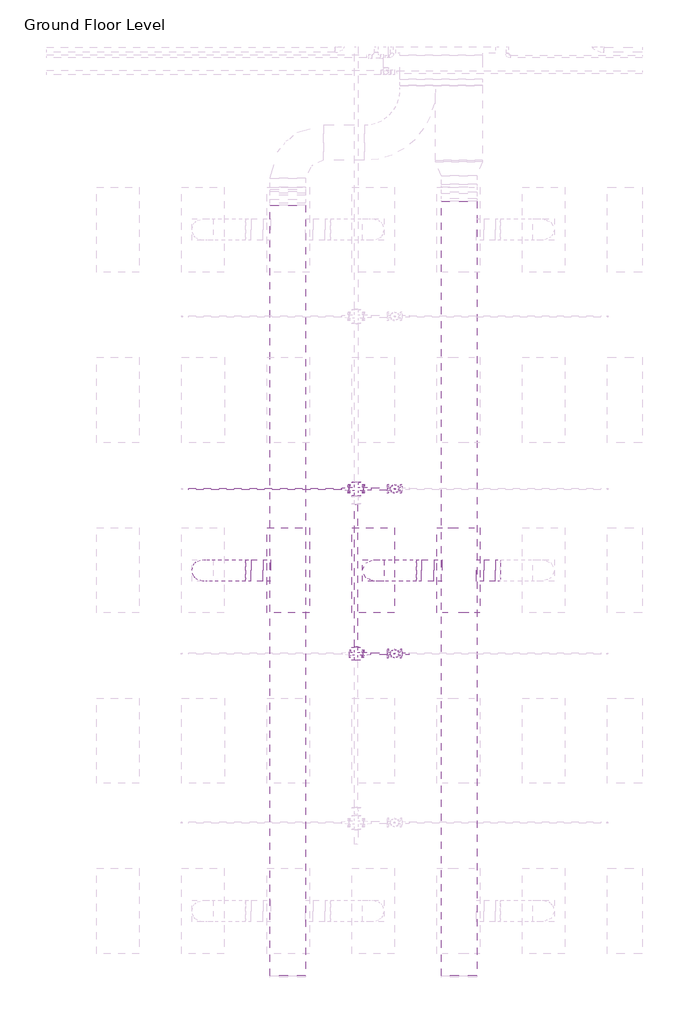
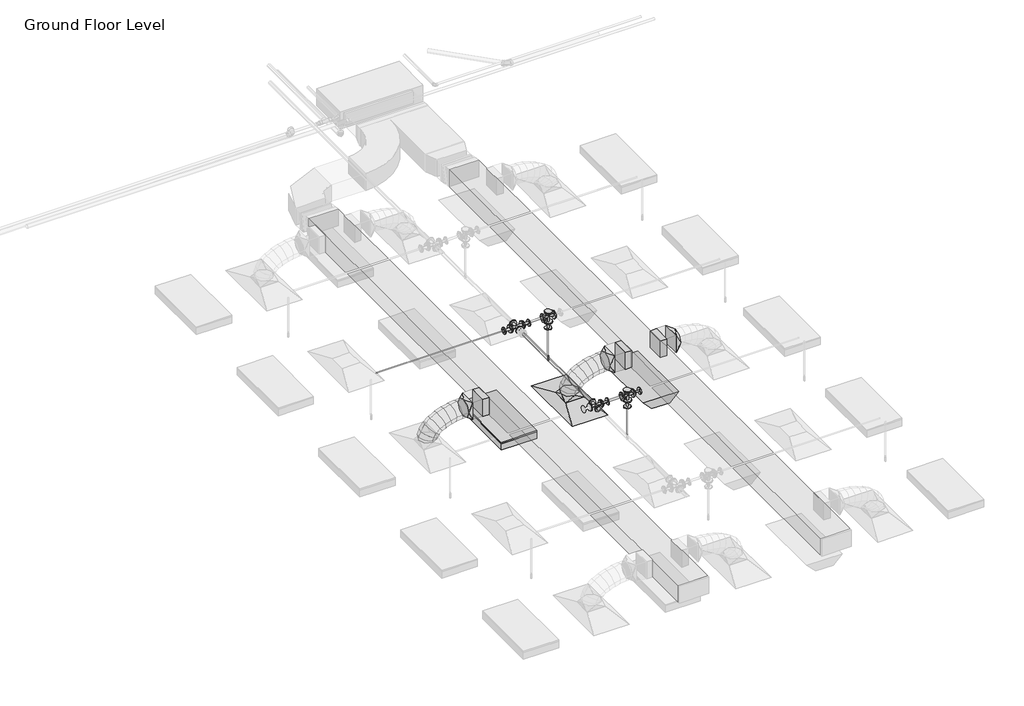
# One storey, part 45 of 66: 10 pipe fittings, 7 duct fittings, 7 duct segments, 6 pipe segments, 2 light fixtures, 1 air terminal, 1 fire suppression terminal.
"""IFC4 building model written with IfcOpenShell, lengths in millimetres."""

from ifc_helpers import new_model, si_unit, point, frame, frame_2d, origin, place, context, project, spatial, polyline, circle_curve, ellipse_curve, trimmed, segment, composite_curve, outline, extrude, transform, mapped, element, save
from ifc_brep_helpers import plane_surface, cylinder_surface, advanced_brep
from components import m_return_diffuser_1200x600_1200_x_600_face_300_x_300_d1983ef6, m_rectangular_takeoff_standard_cb0ccb98, m_rectangular_takeoff_standard_2be5eba1, m_rectangular_to_round_transition_angle_45_degree_641efff0, m_sprinkler_dry_pendent_hosted_15_mm_dry_pendent_9bda8e11, m_emergency_recessed_lighting_fixture_600x1200_277_5b10b25d, m_troffer_light_parabolic_rectangular1_0600x1200mm_4_lamp_86473d4a, m_cross_flanged_cs_class_150_standard_fc817054, m_cross_flanged_cs_class_150_standard_46ec961b, m_reducer_flanged_cs_class_150_standard_b6b67c23, m_reducer_flanged_cs_class_150_standard_ccf252ad, m_reducer_flanged_cs_class_150_standard_d42b2106, m_reducer_flanged_cs_class_150_standard_83138b42, m_reducer_flanged_cs_class_150_standard_8338f9e4, m_tee_round_base_flanged_cs_class_150_standard_7e5987a1

model = new_model("IFC4")

# Units and contexts
model_context = context("Model", 3, world=origin())
ifc_project = project(units=[si_unit("LENGTHUNIT", "METRE", prefix="MILLI")], contexts=[model_context])

# Site, building, storey
site = spatial("IfcSite", under=ifc_project)
building = spatial("IfcBuilding", under=site)
storey = spatial("IfcBuildingStorey", under=building, Name="Ground Floor Level", Elevation=900.0)

# Air terminal
placement = place(None, origin())
m_return_diffuser_1200x600_1200_x_600_face_300_x_300_shape = m_return_diffuser_1200x600_1200_x_600_face_300_x_300_d1983ef6(model_context)
element("IfcAirTerminal", 1, ObjectType="M_Supply Diffuser 1200x600 : 1200 x 600 Face 300 x 300 Connection", at=placement, inside=storey, context=model_context, shape_type="MappedRepresentation", body=[
    mapped(m_return_diffuser_1200x600_1200_x_600_face_300_x_300_shape, transform((-5737.2327605, 6435.2153534, 3650.0), x_axis=(0.0, 1.0, 0.0), y_axis=(-1.0, 0.0, 0.0), z_axis=(0.0, 0.0, 1.0))),
])

# Duct fittings
m_rectangular_takeoff_standard_shape = m_rectangular_takeoff_standard_cb0ccb98(model_context)
element("IfcDuctFitting", 2, ObjectType="M_Rectangular Takeoff : Standard", at=placement, inside=storey, context=model_context, shape_type="MappedRepresentation", body=[
    mapped(m_rectangular_takeoff_standard_shape, transform((-4278.6910789, 6435.2153534, 4150.0), x_axis=(1.0, 0.0, 0.0), y_axis=(0.0, -1.0, 0.0), z_axis=(0.0, 0.0, -1.0))),
])
m_rectangular_takeoff_standard_2_shape = m_rectangular_takeoff_standard_2be5eba1(model_context)
element("IfcDuctFitting", 3, ObjectType="M_Rectangular Takeoff : Standard", at=placement, inside=storey, context=model_context, shape_type="MappedRepresentation", body=[
    mapped(m_rectangular_takeoff_standard_2_shape, transform((-7189.6910789, 6435.2153534, 4150.0), x_axis=(-1.0, 0.0, 0.0), y_axis=(0.0, 1.0, 0.0), z_axis=(0.0, 0.0, -1.0))),
])
element("IfcDuctFitting", 4, ObjectType="M_Rectangular Takeoff : Standard", at=placement, inside=storey, context=model_context, shape_type="MappedRepresentation", body=[
    mapped(m_rectangular_takeoff_standard_2_shape, transform((-4778.6910789, 6435.2153534, 4150.0), x_axis=(-1.0, 0.0, 0.0), y_axis=(0.0, 1.0, 0.0), z_axis=(0.0, 0.0, -1.0))),
])
m_rectangular_to_round_transition_angle_45_degree_shape = m_rectangular_to_round_transition_angle_45_degree_641efff0(model_context)
element("IfcDuctFitting", 5, ObjectType="M_Rectangular to Round Transition - Angle : 45 Degree", at=placement, inside=storey, context=model_context, shape_type="MappedRepresentation", body=[
    mapped(m_rectangular_to_round_transition_angle_45_degree_shape, transform((-4018.6539738, 6435.2153534, 4150.0), x_axis=(1.0, 0.0, 0.0), y_axis=(0.0, 1.0, 0.0), z_axis=(0.0, 0.0, 1.0))),
])
element("IfcDuctFitting", 6, ObjectType="M_Rectangular to Round Transition - Angle : 45 Degree", at=placement, inside=storey, context=model_context, shape_type="MappedRepresentation", body=[
    mapped(m_rectangular_to_round_transition_angle_45_degree_shape, transform((-5737.2327605, 6435.2153534, 3751.6), x_axis=(0.0, 0.0, 1.0), y_axis=(-1.0, 0.0, 0.0), z_axis=(0.0, -1.0, 0.0))),
])
element("IfcDuctFitting", 7, ObjectType="M_Rectangular to Round Transition - Angle : 45 Degree", at=placement, inside=storey, context=model_context, shape_type="MappedRepresentation", body=[
    mapped(m_rectangular_to_round_transition_angle_45_degree_shape, transform((-5055.8115473, 6435.2153534, 4150.0), x_axis=(-1.0, 0.0, 0.0), y_axis=(0.0, -1.0, 0.0), z_axis=(0.0, 0.0, 1.0))),
])
element("IfcDuctFitting", 8, ObjectType="M_Rectangular to Round Transition - Angle : 45 Degree", at=placement, inside=storey, context=model_context, shape_type="MappedRepresentation", body=[
    mapped(m_rectangular_to_round_transition_angle_45_degree_shape, transform((-7461.2487616, 6435.2153534, 4150.0), x_axis=(-1.0, 0.0, 0.0), y_axis=(0.0, -1.0, 0.0), z_axis=(0.0, 0.0, 1.0))),
])

# Duct segments
element("IfcDuctSegment", 9, ObjectType="Flex - Round", at=placement, inside=storey, context=model_context, shape_type="AdvancedBrep", body=[
    advanced_brep(
    [(-5587.2327605, 6435.2153534, 3826.6), (-5737.2327605, 6285.2153534, 3826.6), (-5887.2327605, 6435.2153534, 3826.6), (-5737.2327605, 6585.2153534, 3826.6), (-5587.2327605, 6435.2153534, 3832.4836764), (-5737.2327605, 6285.2153534, 3857.3046173), (-5887.2327605, 6435.2153534, 3882.1255581), (-5737.2327605, 6585.2153534, 3857.3046173), (-5585.103404, 6435.2153534, 3838.7416543), (-5720.5718108, 6285.2153534, 3906.2695763), (-5856.0402176, 6435.2153534, 3973.7974983), (-5720.5718108, 6585.2153534, 3906.2695763), (-5563.0819031, 6435.2153534, 3871.1466478), (-5674.6950292, 6285.2153534, 3973.7779999), (-5786.3081553, 6435.2153534, 4076.409352), (-5674.6950292, 6585.2153534, 3973.7779999), (-5523.1404393, 6435.2153534, 3903.4907359), (-5605.7615172, 6285.2153534, 4029.599479), (-5688.382595, 6435.2153534, 4155.7082221), (-5605.7615172, 6585.2153534, 4029.599479), (-5460.2203199, 6435.2153534, 3936.1920073), (-5519.930376, 6285.2153534, 4074.2082221), (-5579.6404321, 6435.2153534, 4212.2244369), (-5519.930376, 6585.2153534, 4074.2082221), (-5381.3704755, 6435.2153534, 3963.847287), (-5423.360707, 6285.2153534, 4108.0784374), (-5465.3509386, 6435.2153534, 4252.3095878), (-5423.360707, 6585.2153534, 4108.0784374), (-5294.8012537, 6435.2153534, 3984.0505724), (-5322.2116117, 6285.2153534, 4131.6843333), (-5349.6219697, 6435.2153534, 4279.3180942), (-5322.2116117, 6585.2153534, 4131.6843333), (-5208.3198115, 6435.2153534, 3996.0503308), (-5222.6421913, 6285.2153534, 4145.500118), (-5236.9645711, 6435.2153534, 4294.9499053), (-5222.6421913, 6585.2153534, 4145.500118), (-5134.1613712, 6435.2153534, 4000.0), (-5138.1530331, 6285.2153534, 4150.0), (-5142.144695, 6435.2153534, 4300.0), (-5138.1530331, 6585.2153534, 4150.0), (-5130.8115473, 6435.2153534, 4000.0), (-5130.8115473, 6585.2153534, 4150.0), (-5130.8115473, 6435.2153534, 4300.0), (-5130.8115473, 6285.2153534, 4150.0)],
    [
        (0, 1, circle_curve(frame((-5737.2327605, 6435.2153534, 3826.6), z_axis=(0.0, 0.0, -1.0), x_axis=(1.0, 0.0, 0.0)), 150.0)),
        (1, 2, circle_curve(frame((-5737.2327605, 6435.2153534, 3826.6), z_axis=(0.0, 0.0, -1.0), x_axis=(1.0, 0.0, 0.0)), 150.0)),
        (2, 3, circle_curve(frame((-5737.2327605, 6435.2153534, 3826.6), z_axis=(0.0, 0.0, -1.0), x_axis=(1.0, 0.0, 0.0)), 150.0)),
        (3, 0, circle_curve(frame((-5737.2327605, 6435.2153534, 3826.6), z_axis=(0.0, 0.0, -1.0), x_axis=(1.0, 0.0, 0.0)), 150.0)),
        (0, 4),
        (4, 5, ellipse_curve(frame((-5737.2327605, 6435.2153534, 3857.3046173), z_axis=(-0.16325299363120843, 0.0, -0.9865842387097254), x_axis=(0.9865842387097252, 0.0, -0.16325299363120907)), 152.0397287, 150.0)),
        (5, 1),
        (5, 6, ellipse_curve(frame((-5737.2327605, 6435.2153534, 3857.3046173), z_axis=(-0.16325299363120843, 0.0, -0.9865842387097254), x_axis=(0.9865842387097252, 0.0, -0.16325299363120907)), 152.0397287, 150.0)),
        (6, 2),
        (6, 7, ellipse_curve(frame((-5737.2327605, 6435.2153534, 3857.3046173), z_axis=(-0.16325299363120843, 0.0, -0.9865842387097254), x_axis=(0.9865842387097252, 0.0, -0.16325299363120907)), 152.0397287, 150.0)),
        (7, 3),
        (7, 4, ellipse_curve(frame((-5737.2327605, 6435.2153534, 3857.3046173), z_axis=(-0.16325299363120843, 0.0, -0.9865842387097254), x_axis=(0.9865842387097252, 0.0, -0.16325299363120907)), 152.0397287, 150.0)),
        (4, 8),
        (8, 9, ellipse_curve(frame((-5720.5718108, 6435.2153534, 3906.2695763), z_axis=(-0.4461230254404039, 0.0, -0.894971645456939), x_axis=(0.8949716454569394, 0.0, -0.44612302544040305)), 151.3661438, 150.0)),
        (9, 5),
        (9, 10, ellipse_curve(frame((-5720.5718108, 6435.2153534, 3906.2695763), z_axis=(-0.4461230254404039, 0.0, -0.894971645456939), x_axis=(0.8949716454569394, 0.0, -0.44612302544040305)), 151.3661438, 150.0)),
        (10, 6),
        (10, 11, ellipse_curve(frame((-5720.5718108, 6435.2153534, 3906.2695763), z_axis=(-0.4461230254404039, 0.0, -0.894971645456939), x_axis=(0.8949716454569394, 0.0, -0.44612302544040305)), 151.3661438, 150.0)),
        (11, 7),
        (11, 8, ellipse_curve(frame((-5720.5718108, 6435.2153534, 3906.2695763), z_axis=(-0.4461230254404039, 0.0, -0.894971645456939), x_axis=(0.8949716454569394, 0.0, -0.44612302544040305)), 151.3661438, 150.0)),
        (8, 12),
        (12, 13, ellipse_curve(frame((-5674.6950292, 6435.2153534, 3973.7779999), z_axis=(-0.6768681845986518, 0.0, -0.7361042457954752), x_axis=(0.7361042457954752, 0.0, -0.6768681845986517)), 151.626793, 150.0)),
        (13, 9),
        (13, 14, ellipse_curve(frame((-5674.6950292, 6435.2153534, 3973.7779999), z_axis=(-0.6768681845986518, 0.0, -0.7361042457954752), x_axis=(0.7361042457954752, 0.0, -0.6768681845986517)), 151.626793, 150.0)),
        (14, 10),
        (14, 15, ellipse_curve(frame((-5674.6950292, 6435.2153534, 3973.7779999), z_axis=(-0.6768681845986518, 0.0, -0.7361042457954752), x_axis=(0.7361042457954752, 0.0, -0.6768681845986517)), 151.626793, 150.0)),
        (15, 11),
        (15, 12, ellipse_curve(frame((-5674.6950292, 6435.2153534, 3973.7779999), z_axis=(-0.6768681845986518, 0.0, -0.7361042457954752), x_axis=(0.7361042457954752, 0.0, -0.6768681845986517)), 151.626793, 150.0)),
        (12, 16),
        (16, 17, ellipse_curve(frame((-5605.7615172, 6435.2153534, 4029.599479), z_axis=(-0.8364668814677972, 0.0, -0.5480174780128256), x_axis=(0.5480174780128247, 0.0, -0.8364668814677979)), 150.7635818, 150.0)),
        (17, 13),
        (17, 18, ellipse_curve(frame((-5605.7615172, 6435.2153534, 4029.599479), z_axis=(-0.8364668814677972, 0.0, -0.5480174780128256), x_axis=(0.5480174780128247, 0.0, -0.8364668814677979)), 150.7635818, 150.0)),
        (18, 14),
        (18, 19, ellipse_curve(frame((-5605.7615172, 6435.2153534, 4029.599479), z_axis=(-0.8364668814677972, 0.0, -0.5480174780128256), x_axis=(0.5480174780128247, 0.0, -0.8364668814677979)), 150.7635818, 150.0)),
        (19, 15),
        (19, 16, ellipse_curve(frame((-5605.7615172, 6435.2153534, 4029.599479), z_axis=(-0.8364668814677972, 0.0, -0.5480174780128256), x_axis=(0.5480174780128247, 0.0, -0.8364668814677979)), 150.7635818, 150.0)),
        (16, 20),
        (20, 21, ellipse_curve(frame((-5519.930376, 6435.2153534, 4074.2082221), z_axis=(-0.917790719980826, 0.0, -0.3970644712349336), x_axis=(0.3970644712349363, 0.0, -0.9177907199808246)), 150.378743, 150.0)),
        (21, 17),
        (21, 22, ellipse_curve(frame((-5519.930376, 6435.2153534, 4074.2082221), z_axis=(-0.917790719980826, 0.0, -0.3970644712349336), x_axis=(0.3970644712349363, 0.0, -0.9177907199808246)), 150.378743, 150.0)),
        (22, 18),
        (22, 23, ellipse_curve(frame((-5519.930376, 6435.2153534, 4074.2082221), z_axis=(-0.917790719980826, 0.0, -0.3970644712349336), x_axis=(0.3970644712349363, 0.0, -0.9177907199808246)), 150.378743, 150.0)),
        (23, 19),
        (23, 20, ellipse_curve(frame((-5519.930376, 6435.2153534, 4074.2082221), z_axis=(-0.917790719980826, 0.0, -0.3970644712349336), x_axis=(0.3970644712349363, 0.0, -0.9177907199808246)), 150.378743, 150.0)),
        (20, 24),
        (24, 25, ellipse_curve(frame((-5423.360707, 6435.2153534, 4108.0784374), z_axis=(-0.9601380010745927, 0.0, -0.2795264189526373), x_axis=(0.279526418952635, 0.0, -0.9601380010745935)), 150.2191875, 150.0)),
        (25, 21),
        (25, 26, ellipse_curve(frame((-5423.360707, 6435.2153534, 4108.0784374), z_axis=(-0.9601380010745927, 0.0, -0.2795264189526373), x_axis=(0.279526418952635, 0.0, -0.9601380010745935)), 150.2191875, 150.0)),
        (26, 22),
        (26, 27, ellipse_curve(frame((-5423.360707, 6435.2153534, 4108.0784374), z_axis=(-0.9601380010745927, 0.0, -0.2795264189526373), x_axis=(0.279526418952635, 0.0, -0.9601380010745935)), 150.2191875, 150.0)),
        (27, 23),
        (27, 24, ellipse_curve(frame((-5423.360707, 6435.2153534, 4108.0784374), z_axis=(-0.9601380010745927, 0.0, -0.2795264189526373), x_axis=(0.279526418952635, 0.0, -0.9601380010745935)), 150.2191875, 150.0)),
        (24, 28),
        (28, 29, ellipse_curve(frame((-5322.2116117, 6435.2153534, 4131.6843333), z_axis=(-0.9831975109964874, 0.0, -0.1825449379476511), x_axis=(0.1825449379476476, 0.0, -0.9831975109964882)), 150.1567684, 150.0)),
        (29, 25),
        (29, 30, ellipse_curve(frame((-5322.2116117, 6435.2153534, 4131.6843333), z_axis=(-0.9831975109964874, 0.0, -0.1825449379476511), x_axis=(0.1825449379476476, 0.0, -0.9831975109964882)), 150.1567684, 150.0)),
        (30, 26),
        (30, 31, ellipse_curve(frame((-5322.2116117, 6435.2153534, 4131.6843333), z_axis=(-0.9831975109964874, 0.0, -0.1825449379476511), x_axis=(0.1825449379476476, 0.0, -0.9831975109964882)), 150.1567684, 150.0)),
        (31, 27),
        (31, 28, ellipse_curve(frame((-5322.2116117, 6435.2153534, 4131.6843333), z_axis=(-0.9831975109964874, 0.0, -0.1825449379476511), x_axis=(0.1825449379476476, 0.0, -0.9831975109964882)), 150.1567684, 150.0)),
        (28, 32),
        (32, 33, ellipse_curve(frame((-5222.6421913, 6435.2153534, 4145.500118), z_axis=(-0.99543930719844, 0.0, -0.09539698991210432), x_axis=(0.09539698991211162, 0.0, -0.9954393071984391)), 150.1345046, 150.0)),
        (33, 29),
        (33, 34, ellipse_curve(frame((-5222.6421913, 6435.2153534, 4145.500118), z_axis=(-0.99543930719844, 0.0, -0.09539698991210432), x_axis=(0.09539698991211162, 0.0, -0.9954393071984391)), 150.1345046, 150.0)),
        (34, 30),
        (34, 35, ellipse_curve(frame((-5222.6421913, 6435.2153534, 4145.500118), z_axis=(-0.99543930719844, 0.0, -0.09539698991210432), x_axis=(0.09539698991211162, 0.0, -0.9954393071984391)), 150.1345046, 150.0)),
        (35, 31),
        (35, 32, ellipse_curve(frame((-5222.6421913, 6435.2153534, 4145.500118), z_axis=(-0.99543930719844, 0.0, -0.09539698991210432), x_axis=(0.09539698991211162, 0.0, -0.9954393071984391)), 150.1345046, 150.0)),
        (32, 36),
        (36, 37, ellipse_curve(frame((-5138.1530331, 6435.2153534, 4150.0), z_axis=(-0.9996461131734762, 0.0, -0.026601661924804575), x_axis=(0.026601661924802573, 0.0, -0.9996461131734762)), 150.0531018, 150.0)),
        (37, 33),
        (37, 38, ellipse_curve(frame((-5138.1530331, 6435.2153534, 4150.0), z_axis=(-0.9996461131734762, 0.0, -0.026601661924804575), x_axis=(0.026601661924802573, 0.0, -0.9996461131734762)), 150.0531018, 150.0)),
        (38, 34),
        (38, 39, ellipse_curve(frame((-5138.1530331, 6435.2153534, 4150.0), z_axis=(-0.9996461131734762, 0.0, -0.026601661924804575), x_axis=(0.026601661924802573, 0.0, -0.9996461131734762)), 150.0531018, 150.0)),
        (39, 35),
        (39, 36, ellipse_curve(frame((-5138.1530331, 6435.2153534, 4150.0), z_axis=(-0.9996461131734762, 0.0, -0.026601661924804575), x_axis=(0.026601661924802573, 0.0, -0.9996461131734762)), 150.0531018, 150.0)),
        (40, 41, circle_curve(frame((-5130.8115473, 6435.2153534, 4150.0), z_axis=(1.0, 0.0, 0.0), x_axis=(0.0, 0.0, -1.0)), 150.0)),
        (41, 42, circle_curve(frame((-5130.8115473, 6435.2153534, 4150.0), z_axis=(1.0, 0.0, 0.0), x_axis=(0.0, 0.0, -1.0)), 150.0)),
        (42, 43, circle_curve(frame((-5130.8115473, 6435.2153534, 4150.0), z_axis=(1.0, 0.0, 0.0), x_axis=(0.0, 0.0, -1.0)), 150.0)),
        (43, 40, circle_curve(frame((-5130.8115473, 6435.2153534, 4150.0), z_axis=(1.0, 0.0, 0.0), x_axis=(0.0, 0.0, -1.0)), 150.0)),
        (36, 40),
        (43, 37),
        (42, 38),
        (41, 39),
    ],
    [
        plane_surface(frame((-5737.2327605, 6285.2153534, 3826.6), z_axis=(0.0, 0.0, -1.0), x_axis=(1.0, 0.0, 0.0))),
        cylinder_surface(frame((-5737.2327605, 6435.2153534, 3826.6), z_axis=(0.0, 0.0, -1.0), x_axis=(1.0, 0.0, 0.0)), 150.0),
        cylinder_surface(frame((-5737.2327605, 6435.2153534, 3857.3046173), z_axis=(-0.3221256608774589, 0.0, -0.9466969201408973), x_axis=(0.9466969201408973, 0.0, -0.3221256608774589)), 150.0),
        cylinder_surface(frame((-5720.5718108, 6435.2153534, 3906.2695763), z_axis=(-0.5620674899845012, 0.0, -0.8270913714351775), x_axis=(0.8270913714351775, 0.0, -0.5620674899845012)), 150.0),
        cylinder_surface(frame((-5674.6950292, 6435.2153534, 3973.7779999), z_axis=(-0.7771447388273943, 0.0, -0.6293219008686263), x_axis=(0.6293219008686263, 0.0, -0.7771447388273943)), 150.0),
        cylinder_surface(frame((-5605.7615172, 6435.2153534, 4029.599479), z_axis=(-0.8873160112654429, 0.0, -0.4611618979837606), x_axis=(0.4611618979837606, 0.0, -0.8873160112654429)), 150.0),
        cylinder_surface(frame((-5519.930376, 6435.2153534, 4074.2082221), z_axis=(-0.9436423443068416, 0.0, -0.3309669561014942), x_axis=(0.3309669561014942, 0.0, -0.9436423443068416)), 150.0),
        cylinder_surface(frame((-5423.360707, 6435.2153534, 4108.0784374), z_axis=(-0.9738317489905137, 0.0, -0.2272701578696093), x_axis=(0.2272701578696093, 0.0, -0.9738317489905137)), 150.0),
        cylinder_surface(frame((-5322.2116117, 6435.2153534, 4131.6843333), z_axis=(-0.9905102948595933, 0.0, -0.13743855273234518), x_axis=(0.13743855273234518, 0.0, -0.9905102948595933)), 150.0),
        cylinder_surface(frame((-5222.6421913, 6435.2153534, 4145.500118), z_axis=(-0.9985847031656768, 0.0, -0.05318449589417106), x_axis=(0.05318449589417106, 0.0, -0.9985847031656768)), 150.0),
        plane_surface(frame((-5130.8115473, 6435.2153534, 4000.0), z_axis=(1.0, 0.0, 0.0), x_axis=(0.0, 1.0, 0.0))),
        cylinder_surface(frame((-5138.1530331, 6435.2153534, 4150.0), z_axis=(-1.0, 0.0, 0.0), x_axis=(0.0, 0.0, -1.0)), 150.0),
    ],
    [
        (0, [[1, 2, 3, 4]]),
        (1, [[-1, 5, 6, 7]]),
        (1, [[-2, -7, 8, 9]]),
        (1, [[-3, -9, 10, 11]]),
        (1, [[-4, -11, 12, -5]]),
        (2, [[-6, 13, 14, 15]]),
        (2, [[-8, -15, 16, 17]]),
        (2, [[-10, -17, 18, 19]]),
        (2, [[-12, -19, 20, -13]]),
        (3, [[-14, 21, 22, 23]]),
        (3, [[-16, -23, 24, 25]]),
        (3, [[-18, -25, 26, 27]]),
        (3, [[-20, -27, 28, -21]]),
        (4, [[-22, 29, 30, 31]]),
        (4, [[-24, -31, 32, 33]]),
        (4, [[-26, -33, 34, 35]]),
        (4, [[-28, -35, 36, -29]]),
        (5, [[-30, 37, 38, 39]]),
        (5, [[-32, -39, 40, 41]]),
        (5, [[-34, -41, 42, 43]]),
        (5, [[-36, -43, 44, -37]]),
        (6, [[-38, 45, 46, 47]]),
        (6, [[-40, -47, 48, 49]]),
        (6, [[-42, -49, 50, 51]]),
        (6, [[-44, -51, 52, -45]]),
        (7, [[-46, 53, 54, 55]]),
        (7, [[-48, -55, 56, 57]]),
        (7, [[-50, -57, 58, 59]]),
        (7, [[-52, -59, 60, -53]]),
        (8, [[-54, 61, 62, 63]]),
        (8, [[-56, -63, 64, 65]]),
        (8, [[-58, -65, 66, 67]]),
        (8, [[-60, -67, 68, -61]]),
        (9, [[-62, 69, 70, 71]]),
        (9, [[-64, -71, 72, 73]]),
        (9, [[-66, -73, 74, 75]]),
        (9, [[-68, -75, 76, -69]]),
        (10, [[77, 78, 79, 80]]),
        (11, [[-70, 81, -80, 82]]),
        (11, [[-72, -82, -79, 83]]),
        (11, [[-74, -83, -78, 84]]),
        (11, [[-76, -84, -77, -81]]),
    ],
),
])
element("IfcDuctSegment", 10, ObjectType="Flex - Round", at=placement, inside=storey, context=model_context, shape_type="AdvancedBrep", body=[
    advanced_brep(
    [(-7992.6846929, 6435.2153534, 3826.6), (-8142.6846929, 6285.2153534, 3826.6), (-8292.6846929, 6435.2153534, 3826.6), (-8142.6846929, 6585.2153534, 3826.6), (-7992.6846929, 6435.2153534, 3832.4838104), (-8142.6846929, 6285.2153534, 3857.3049615), (-8292.6846929, 6435.2153534, 3882.1261126), (-8142.6846929, 6585.2153534, 3857.3049615), (-7990.555208, 6435.2153534, 3838.7421096), (-8126.0232883, 6285.2153534, 3906.2708192), (-8261.4913687, 6435.2153534, 3973.7995287), (-8126.0232883, 6585.2153534, 3906.2708192), (-7968.5331802, 6435.2153534, 3871.1472855), (-8080.1452707, 6285.2153534, 3973.7798261), (-8191.7573612, 6435.2153534, 4076.4123668), (-8080.1452707, 6585.2153534, 3973.7798261), (-7928.5904556, 6435.2153534, 3903.4915826), (-8011.2099341, 6285.2153534, 4029.6013814), (-8093.8294126, 6435.2153534, 4155.7111802), (-8011.2099341, 6585.2153534, 4029.6013814), (-7865.6682729, 6435.2153534, 3936.1928758), (-7925.3765727, 6285.2153534, 4074.2098454), (-7985.0848725, 6435.2153534, 4212.226815), (-7925.3765727, 6585.2153534, 4074.2098454), (-7786.815881, 6435.2153534, 3963.8479616), (-7828.8044806, 6285.2153534, 4108.0795788), (-7870.7930803, 6435.2153534, 4252.311196), (-7828.8044806, 6585.2153534, 4108.0795788), (-7700.2438983, 6435.2153534, 3984.0509494), (-7727.652952, 6285.2153534, 4131.684942), (-7755.0620057, 6435.2153534, 4279.3189347), (-7727.652952, 6585.2153534, 4131.684942), (-7613.759715, 6435.2153534, 3996.0504424), (-7628.081281, 6285.2153534, 4145.5002956), (-7642.4028469, 6435.2153534, 4294.9501488), (-7628.081281, 6585.2153534, 4145.5002956), (-7539.5984134, 6435.2153534, 4000.0), (-7543.5898089, 6285.2153534, 4150.0), (-7547.5812043, 6435.2153534, 4300.0), (-7543.5898089, 6585.2153534, 4150.0), (-7536.2487616, 6435.2153534, 4000.0), (-7536.2487616, 6585.2153534, 4150.0), (-7536.2487616, 6435.2153534, 4300.0), (-7536.2487616, 6285.2153534, 4150.0)],
    [
        (0, 1, circle_curve(frame((-8142.6846929, 6435.2153534, 3826.6), z_axis=(0.0, 0.0, -1.0), x_axis=(1.0, 0.0, 0.0)), 150.0)),
        (1, 2, circle_curve(frame((-8142.6846929, 6435.2153534, 3826.6), z_axis=(0.0, 0.0, -1.0), x_axis=(1.0, 0.0, 0.0)), 150.0)),
        (2, 3, circle_curve(frame((-8142.6846929, 6435.2153534, 3826.6), z_axis=(0.0, 0.0, -1.0), x_axis=(1.0, 0.0, 0.0)), 150.0)),
        (3, 0, circle_curve(frame((-8142.6846929, 6435.2153534, 3826.6), z_axis=(0.0, 0.0, -1.0), x_axis=(1.0, 0.0, 0.0)), 150.0)),
        (0, 4),
        (4, 5, ellipse_curve(frame((-8142.6846929, 6435.2153534, 3857.3049615), z_axis=(-0.1632543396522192, 0.0, -0.9865840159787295), x_axis=(0.9865840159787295, 0.0, -0.16325433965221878)), 152.039763, 150.0)),
        (5, 1),
        (5, 6, ellipse_curve(frame((-8142.6846929, 6435.2153534, 3857.3049615), z_axis=(-0.1632543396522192, 0.0, -0.9865840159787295), x_axis=(0.9865840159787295, 0.0, -0.16325433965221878)), 152.039763, 150.0)),
        (6, 2),
        (6, 7, ellipse_curve(frame((-8142.6846929, 6435.2153534, 3857.3049615), z_axis=(-0.1632543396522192, 0.0, -0.9865840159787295), x_axis=(0.9865840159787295, 0.0, -0.16325433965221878)), 152.039763, 150.0)),
        (7, 3),
        (7, 4, ellipse_curve(frame((-8142.6846929, 6435.2153534, 3857.3049615), z_axis=(-0.1632543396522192, 0.0, -0.9865840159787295), x_axis=(0.9865840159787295, 0.0, -0.16325433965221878)), 152.039763, 150.0)),
        (4, 8),
        (8, 9, ellipse_curve(frame((-8126.0232883, 6435.2153534, 3906.2708192), z_axis=(-0.44612805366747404, 0.0, -0.8949691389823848), x_axis=(0.8949691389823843, 0.0, -0.44612805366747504)), 151.366203, 150.0)),
        (9, 5),
        (9, 10, ellipse_curve(frame((-8126.0232883, 6435.2153534, 3906.2708192), z_axis=(-0.44612805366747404, 0.0, -0.8949691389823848), x_axis=(0.8949691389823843, 0.0, -0.44612805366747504)), 151.366203, 150.0)),
        (10, 6),
        (10, 11, ellipse_curve(frame((-8126.0232883, 6435.2153534, 3906.2708192), z_axis=(-0.44612805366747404, 0.0, -0.8949691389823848), x_axis=(0.8949691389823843, 0.0, -0.44612805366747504)), 151.366203, 150.0)),
        (11, 7),
        (11, 8, ellipse_curve(frame((-8126.0232883, 6435.2153534, 3906.2708192), z_axis=(-0.44612805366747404, 0.0, -0.8949691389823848), x_axis=(0.8949691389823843, 0.0, -0.44612805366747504)), 151.366203, 150.0)),
        (8, 12),
        (12, 13, ellipse_curve(frame((-8080.1452707, 6435.2153534, 3973.7798261), z_axis=(-0.6768758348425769, 0.0, -0.7360972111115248), x_axis=(0.7360972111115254, 0.0, -0.6768758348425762)), 151.6268352, 150.0)),
        (13, 9),
        (13, 14, ellipse_curve(frame((-8080.1452707, 6435.2153534, 3973.7798261), z_axis=(-0.6768758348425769, 0.0, -0.7360972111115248), x_axis=(0.7360972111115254, 0.0, -0.6768758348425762)), 151.6268352, 150.0)),
        (14, 10),
        (14, 15, ellipse_curve(frame((-8080.1452707, 6435.2153534, 3973.7798261), z_axis=(-0.6768758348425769, 0.0, -0.7360972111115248), x_axis=(0.7360972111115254, 0.0, -0.6768758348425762)), 151.6268352, 150.0)),
        (15, 11),
        (15, 12, ellipse_curve(frame((-8080.1452707, 6435.2153534, 3973.7798261), z_axis=(-0.6768758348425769, 0.0, -0.7360972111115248), x_axis=(0.7360972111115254, 0.0, -0.6768758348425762)), 151.6268352, 150.0)),
        (12, 16),
        (16, 17, ellipse_curve(frame((-8011.2099341, 6435.2153534, 4029.6013814), z_axis=(-0.8364738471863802, 0.0, -0.5480068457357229), x_axis=(0.5480068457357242, 0.0, -0.8364738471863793)), 150.7635884, 150.0)),
        (17, 13),
        (17, 18, ellipse_curve(frame((-8011.2099341, 6435.2153534, 4029.6013814), z_axis=(-0.8364738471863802, 0.0, -0.5480068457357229), x_axis=(0.5480068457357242, 0.0, -0.8364738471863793)), 150.7635884, 150.0)),
        (18, 14),
        (18, 19, ellipse_curve(frame((-8011.2099341, 6435.2153534, 4029.6013814), z_axis=(-0.8364738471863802, 0.0, -0.5480068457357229), x_axis=(0.5480068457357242, 0.0, -0.8364738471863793)), 150.7635884, 150.0)),
        (19, 15),
        (19, 16, ellipse_curve(frame((-8011.2099341, 6435.2153534, 4029.6013814), z_axis=(-0.8364738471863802, 0.0, -0.5480068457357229), x_axis=(0.5480068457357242, 0.0, -0.8364738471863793)), 150.7635884, 150.0)),
        (16, 20),
        (20, 21, ellipse_curve(frame((-7925.3765727, 6435.2153534, 4074.2098454), z_axis=(-0.9177957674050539, 0.0, -0.39705280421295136), x_axis=(0.39705280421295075, 0.0, -0.9177957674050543)), 150.3787384, 150.0)),
        (21, 17),
        (21, 22, ellipse_curve(frame((-7925.3765727, 6435.2153534, 4074.2098454), z_axis=(-0.9177957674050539, 0.0, -0.39705280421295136), x_axis=(0.39705280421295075, 0.0, -0.9177957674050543)), 150.3787384, 150.0)),
        (22, 18),
        (22, 23, ellipse_curve(frame((-7925.3765727, 6435.2153534, 4074.2098454), z_axis=(-0.9177957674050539, 0.0, -0.39705280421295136), x_axis=(0.39705280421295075, 0.0, -0.9177957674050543)), 150.3787384, 150.0)),
        (23, 19),
        (23, 20, ellipse_curve(frame((-7925.3765727, 6435.2153534, 4074.2098454), z_axis=(-0.9177957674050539, 0.0, -0.39705280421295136), x_axis=(0.39705280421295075, 0.0, -0.9177957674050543)), 150.3787384, 150.0)),
        (20, 24),
        (24, 25, ellipse_curve(frame((-7828.8044806, 6435.2153534, 4108.0795788), z_axis=(-0.9601411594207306, 0.0, -0.2795155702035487), x_axis=(0.27951557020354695, 0.0, -0.9601411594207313)), 150.2191795, 150.0)),
        (25, 21),
        (25, 26, ellipse_curve(frame((-7828.8044806, 6435.2153534, 4108.0795788), z_axis=(-0.9601411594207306, 0.0, -0.2795155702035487), x_axis=(0.27951557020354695, 0.0, -0.9601411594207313)), 150.2191795, 150.0)),
        (26, 22),
        (26, 27, ellipse_curve(frame((-7828.8044806, 6435.2153534, 4108.0795788), z_axis=(-0.9601411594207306, 0.0, -0.2795155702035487), x_axis=(0.27951557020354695, 0.0, -0.9601411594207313)), 150.2191795, 150.0)),
        (27, 23),
        (27, 24, ellipse_curve(frame((-7828.8044806, 6435.2153534, 4108.0795788), z_axis=(-0.9601411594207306, 0.0, -0.2795155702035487), x_axis=(0.27951557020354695, 0.0, -0.9601411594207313)), 150.2191795, 150.0)),
        (24, 28),
        (28, 29, ellipse_curve(frame((-7727.652952, 6435.2153534, 4131.684942), z_axis=(-0.9831991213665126, 0.0, -0.1825362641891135), x_axis=(0.1825362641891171, 0.0, -0.9831991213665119)), 150.1567581, 150.0)),
        (29, 25),
        (29, 30, ellipse_curve(frame((-7727.652952, 6435.2153534, 4131.684942), z_axis=(-0.9831991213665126, 0.0, -0.1825362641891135), x_axis=(0.1825362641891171, 0.0, -0.9831991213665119)), 150.1567581, 150.0)),
        (30, 26),
        (30, 31, ellipse_curve(frame((-7727.652952, 6435.2153534, 4131.684942), z_axis=(-0.9831991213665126, 0.0, -0.1825362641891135), x_axis=(0.1825362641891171, 0.0, -0.9831991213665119)), 150.1567581, 150.0)),
        (31, 27),
        (31, 28, ellipse_curve(frame((-7727.652952, 6435.2153534, 4131.684942), z_axis=(-0.9831991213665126, 0.0, -0.1825362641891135), x_axis=(0.1825362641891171, 0.0, -0.9831991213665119)), 150.1567581, 150.0)),
        (28, 32),
        (32, 33, ellipse_curve(frame((-7628.081281, 6435.2153534, 4145.5002956), z_axis=(-0.9954398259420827, 0.0, -0.09539157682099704), x_axis=(0.09539157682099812, 0.0, -0.9954398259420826)), 150.1344926, 150.0)),
        (33, 29),
        (33, 34, ellipse_curve(frame((-7628.081281, 6435.2153534, 4145.5002956), z_axis=(-0.9954398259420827, 0.0, -0.09539157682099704), x_axis=(0.09539157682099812, 0.0, -0.9954398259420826)), 150.1344926, 150.0)),
        (34, 30),
        (34, 35, ellipse_curve(frame((-7628.081281, 6435.2153534, 4145.5002956), z_axis=(-0.9954398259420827, 0.0, -0.09539157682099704), x_axis=(0.09539157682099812, 0.0, -0.9954398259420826)), 150.1344926, 150.0)),
        (35, 31),
        (35, 32, ellipse_curve(frame((-7628.081281, 6435.2153534, 4145.5002956), z_axis=(-0.9954398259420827, 0.0, -0.09539157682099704), x_axis=(0.09539157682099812, 0.0, -0.9954398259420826)), 150.1344926, 150.0)),
        (32, 36),
        (36, 37, ellipse_curve(frame((-7543.5898089, 6435.2153534, 4150.0), z_axis=(-0.9996461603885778, 0.0, -0.026599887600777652), x_axis=(0.026599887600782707, 0.0, -0.9996461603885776)), 150.0530947, 150.0)),
        (37, 33),
        (37, 38, ellipse_curve(frame((-7543.5898089, 6435.2153534, 4150.0), z_axis=(-0.9996461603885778, 0.0, -0.026599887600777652), x_axis=(0.026599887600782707, 0.0, -0.9996461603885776)), 150.0530947, 150.0)),
        (38, 34),
        (38, 39, ellipse_curve(frame((-7543.5898089, 6435.2153534, 4150.0), z_axis=(-0.9996461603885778, 0.0, -0.026599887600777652), x_axis=(0.026599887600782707, 0.0, -0.9996461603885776)), 150.0530947, 150.0)),
        (39, 35),
        (39, 36, ellipse_curve(frame((-7543.5898089, 6435.2153534, 4150.0), z_axis=(-0.9996461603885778, 0.0, -0.026599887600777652), x_axis=(0.026599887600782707, 0.0, -0.9996461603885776)), 150.0530947, 150.0)),
        (40, 41, circle_curve(frame((-7536.2487616, 6435.2153534, 4150.0), z_axis=(1.0, 0.0, 0.0), x_axis=(0.0, 0.0, -1.0)), 150.0)),
        (41, 42, circle_curve(frame((-7536.2487616, 6435.2153534, 4150.0), z_axis=(1.0, 0.0, 0.0), x_axis=(0.0, 0.0, -1.0)), 150.0)),
        (42, 43, circle_curve(frame((-7536.2487616, 6435.2153534, 4150.0), z_axis=(1.0, 0.0, 0.0), x_axis=(0.0, 0.0, -1.0)), 150.0)),
        (43, 40, circle_curve(frame((-7536.2487616, 6435.2153534, 4150.0), z_axis=(1.0, 0.0, 0.0), x_axis=(0.0, 0.0, -1.0)), 150.0)),
        (36, 40),
        (43, 37),
        (42, 38),
        (41, 39),
    ],
    [
        plane_surface(frame((-8142.6846929, 6285.2153534, 3826.6), z_axis=(0.0, 0.0, -1.0), x_axis=(1.0, 0.0, 0.0))),
        cylinder_surface(frame((-8142.6846929, 6435.2153534, 3826.6), z_axis=(0.0, 0.0, -1.0), x_axis=(1.0, 0.0, 0.0)), 150.0),
        cylinder_surface(frame((-8142.6846929, 6435.2153534, 3857.3049615), z_axis=(-0.32212824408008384, 0.0, -0.9466960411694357), x_axis=(0.9466960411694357, 0.0, -0.32212824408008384)), 150.0),
        cylinder_surface(frame((-8126.0232883, 6435.2153534, 3906.2708192), z_axis=(-0.5620745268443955, 0.0, -0.8270865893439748), x_axis=(0.8270865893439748, 0.0, -0.5620745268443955)), 150.0),
        cylinder_surface(frame((-8080.1452707, 6435.2153534, 3973.7798261), z_axis=(-0.777152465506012, 0.0, -0.6293123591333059), x_axis=(0.6293123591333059, 0.0, -0.777152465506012)), 150.0),
        cylinder_surface(frame((-8011.2099341, 6435.2153534, 4029.6013814), z_axis=(-0.887322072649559, 0.0, -0.4611502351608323), x_axis=(0.4611502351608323, 0.0, -0.887322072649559)), 150.0),
        cylinder_surface(frame((-7925.3765727, 6435.2153534, 4074.2098454), z_axis=(-0.9436464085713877, 0.0, -0.3309553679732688), x_axis=(0.3309553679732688, 0.0, -0.9436464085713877)), 150.0),
        cylinder_surface(frame((-7828.8044806, 6435.2153534, 4108.0795788), z_axis=(-0.9738340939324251, 0.0, -0.22726010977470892), x_axis=(0.22726010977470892, 0.0, -0.9738340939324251)), 150.0),
        cylinder_surface(frame((-7727.652952, 6435.2153534, 4131.684942), z_axis=(-0.9905113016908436, 0.0, -0.137431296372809), x_axis=(0.137431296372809, 0.0, -0.9905113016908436)), 150.0),
        cylinder_surface(frame((-7628.081281, 6435.2153534, 4145.5002956), z_axis=(-0.998584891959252, 0.0, -0.05318095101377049), x_axis=(0.05318095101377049, 0.0, -0.998584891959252)), 150.0),
        plane_surface(frame((-7536.2487616, 6435.2153534, 4000.0), z_axis=(1.0, 0.0, 0.0), x_axis=(0.0, 1.0, 0.0))),
        cylinder_surface(frame((-7543.5898089, 6435.2153534, 4150.0), z_axis=(-1.0, 0.0, 0.0), x_axis=(0.0, 0.0, -1.0)), 150.0),
    ],
    [
        (0, [[1, 2, 3, 4]]),
        (1, [[-1, 5, 6, 7]]),
        (1, [[-2, -7, 8, 9]]),
        (1, [[-3, -9, 10, 11]]),
        (1, [[-4, -11, 12, -5]]),
        (2, [[-6, 13, 14, 15]]),
        (2, [[-8, -15, 16, 17]]),
        (2, [[-10, -17, 18, 19]]),
        (2, [[-12, -19, 20, -13]]),
        (3, [[-14, 21, 22, 23]]),
        (3, [[-16, -23, 24, 25]]),
        (3, [[-18, -25, 26, 27]]),
        (3, [[-20, -27, 28, -21]]),
        (4, [[-22, 29, 30, 31]]),
        (4, [[-24, -31, 32, 33]]),
        (4, [[-26, -33, 34, 35]]),
        (4, [[-28, -35, 36, -29]]),
        (5, [[-30, 37, 38, 39]]),
        (5, [[-32, -39, 40, 41]]),
        (5, [[-34, -41, 42, 43]]),
        (5, [[-36, -43, 44, -37]]),
        (6, [[-38, 45, 46, 47]]),
        (6, [[-40, -47, 48, 49]]),
        (6, [[-42, -49, 50, 51]]),
        (6, [[-44, -51, 52, -45]]),
        (7, [[-46, 53, 54, 55]]),
        (7, [[-48, -55, 56, 57]]),
        (7, [[-50, -57, 58, 59]]),
        (7, [[-52, -59, 60, -53]]),
        (8, [[-54, 61, 62, 63]]),
        (8, [[-56, -63, 64, 65]]),
        (8, [[-58, -65, 66, 67]]),
        (8, [[-60, -67, 68, -61]]),
        (9, [[-62, 69, 70, 71]]),
        (9, [[-64, -71, 72, 73]]),
        (9, [[-66, -73, 74, 75]]),
        (9, [[-68, -75, 76, -69]]),
        (10, [[77, 78, 79, 80]]),
        (11, [[-70, 81, -80, 82]]),
        (11, [[-72, -82, -79, 83]]),
        (11, [[-74, -83, -78, 84]]),
        (11, [[-76, -84, -77, -81]]),
    ],
),
])
element("IfcDuctSegment", 11, ObjectType="Radius Elbows / Taps", at=placement, inside=storey, context=model_context, shape_type="SweptSolid", body=[
    extrude(outline(polyline([(0.0, -500.0), (0.0, 0.0), (10907.5406802, 0.0), (10907.5406802, -500.0), (0.0, -500.0)])), frame((-4278.6910789, 11632.7713459, 3999.998201), z_axis=(0.0, 3.864729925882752e-06, 0.999999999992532), x_axis=(0.0, -0.999999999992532, 3.864729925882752e-06)), (0.0, 0.0, 1.0), 300.0),
])
element("IfcDuctSegment", 12, ObjectType="Radius Elbows / Taps", at=placement, inside=storey, context=model_context, shape_type="SweptSolid", body=[
    extrude(outline(polyline([(-6689.6910789, 725.2153534), (-7189.6910789, 725.2153534), (-7189.6910789, 11576.9494141), (-6689.6910789, 11576.9494141), (-6689.6910789, 725.2153534)])), frame((0.0, 0.0, 4000.0), z_axis=(0.0, 0.0, 1.0), x_axis=(1.0, 0.0, 0.0)), (0.0, 0.0, 1.0), 300.0),
])
element("IfcDuctSegment", 13, ObjectType="Radius Elbows / Taps", at=placement, inside=storey, context=model_context, shape_type="SweptSolid", body=[
    extrude(outline(polyline([(-7291.2910789, 6585.2153534), (-7291.2910789, 6285.2153534), (-7461.2487616, 6285.2153534), (-7461.2487616, 6585.2153534), (-7291.2910789, 6585.2153534)])), frame((0.0, 0.0, 4000.0), z_axis=(0.0, 0.0, 1.0), x_axis=(1.0, 0.0, 0.0)), (0.0, 0.0, 1.0), 300.0),
])
element("IfcDuctSegment", 14, ObjectType="Radius Elbows / Taps", at=placement, inside=storey, context=model_context, shape_type="SweptSolid", body=[
    extrude(outline(polyline([(-4177.0910789, 6285.2153534), (-4177.0910789, 6585.2153534), (-4018.6539738, 6585.2153534), (-4018.6539738, 6285.2153534), (-4177.0910789, 6285.2153534)])), frame((0.0, 0.0, 4000.0), z_axis=(0.0, 0.0, 1.0), x_axis=(1.0, 0.0, 0.0)), (0.0, 0.0, 1.0), 300.0),
])
element("IfcDuctSegment", 15, ObjectType="Radius Elbows / Taps", at=placement, inside=storey, context=model_context, shape_type="SweptSolid", body=[
    extrude(outline(polyline([(-4880.2910789, 6585.2153534), (-4880.2910789, 6285.2153534), (-5055.8115473, 6285.2153534), (-5055.8115473, 6585.2153534), (-4880.2910789, 6585.2153534)])), frame((0.0, 0.0, 4000.0), z_axis=(0.0, 0.0, 1.0), x_axis=(1.0, 0.0, 0.0)), (0.0, 0.0, 1.0), 300.0),
])

# Fire suppression terminal
m_sprinkler_dry_pendent_hosted_15_mm_dry_pendent_shape = m_sprinkler_dry_pendent_hosted_15_mm_dry_pendent_9bda8e11(model_context)
element("IfcFireSuppressionTerminal", 16, ObjectType="M_Sprinkler - Dry - Pendent - Hosted : 15 mm Dry Pendent", at=placement, inside=storey, context=model_context, shape_type="MappedRepresentation", body=[
    mapped(m_sprinkler_dry_pendent_hosted_15_mm_dry_pendent_shape, transform((-5437.2327605, 7582.7040742, 3650.0), x_axis=(1.0, 0.0, 0.0), y_axis=(0.0, -1.0, 0.0), z_axis=(0.0, 0.0, -1.0))),
])

# Light fixtures
m_emergency_recessed_lighting_fixture_600x1200_277_shape = m_emergency_recessed_lighting_fixture_600x1200_277_5b10b25d(model_context)
element("IfcLightFixture", 17, ObjectType="M_Emergency Recessed Lighting Fixture : 600x1200 - 277", at=placement, inside=storey, context=model_context, shape_type="MappedRepresentation", body=[
    mapped(m_emergency_recessed_lighting_fixture_600x1200_277_shape, transform((-4837.2327605, 5835.2153534, 3650.0), x_axis=(0.0, 1.0, 0.0), y_axis=(-1.0, 0.0, 0.0), z_axis=(0.0, 0.0, 1.0))),
])
m_troffer_light_parabolic_rectangular1_0600x1200mm_4_lamp_shape = m_troffer_light_parabolic_rectangular1_0600x1200mm_4_lamp_86473d4a(model_context)
element("IfcLightFixture", 18, ObjectType="M_Troffer Light - Parabolic Rectangular1 : 0600x1200mm(4 Lamp) - 277V 2", at=placement, inside=storey, context=model_context, shape_type="MappedRepresentation", body=[
    mapped(m_troffer_light_parabolic_rectangular1_0600x1200mm_4_lamp_shape, transform((-6996.6986926, 6453.918855, 3650.0), x_axis=(0.0, 1.0, 0.0), y_axis=(-1.0, 0.0, 0.0), z_axis=(0.0, 0.0, 1.0))),
])

# Pipe fittings
m_cross_flanged_cs_class_150_standard_shape = m_cross_flanged_cs_class_150_standard_fc817054(model_context)
element("IfcPipeFitting", 19, ObjectType="M_Cross - Flanged - CS - Class 150 : Standard", at=placement, inside=storey, context=model_context, shape_type="MappedRepresentation", body=[
    mapped(m_cross_flanged_cs_class_150_standard_shape, transform((-5978.130502, 7582.7040742, 4360.0), x_axis=(0.0, 1.0, 0.0), y_axis=(1.0, 0.0, 0.0), z_axis=(0.0, 0.0, -1.0))),
])
m_cross_flanged_cs_class_150_standard_2_shape = m_cross_flanged_cs_class_150_standard_46ec961b(model_context)
element("IfcPipeFitting", 20, ObjectType="M_Cross - Flanged - CS - Class 150 : Standard", at=placement, inside=storey, context=model_context, shape_type="MappedRepresentation", body=[
    mapped(m_cross_flanged_cs_class_150_standard_2_shape, transform((-5978.130502, 5261.0372753, 4360.0), x_axis=(0.0, 1.0, 0.0), y_axis=(1.0, 0.0, 0.0), z_axis=(0.0, 0.0, -1.0))),
])
m_reducer_flanged_cs_class_150_standard_shape = m_reducer_flanged_cs_class_150_standard_b6b67c23(model_context)
element("IfcPipeFitting", 21, ObjectType="M_Reducer - Flanged - CS - Class 150 : Standard", at=placement, inside=storey, context=model_context, shape_type="MappedRepresentation", body=[
    mapped(m_reducer_flanged_cs_class_150_standard_shape, transform((-5883.130502, 5261.0372753, 4360.0), x_axis=(1.0, 0.0, 0.0), y_axis=(0.0, 1.0, 0.0), z_axis=(0.0, 0.0, 1.0))),
])
m_reducer_flanged_cs_class_150_standard_2_shape = m_reducer_flanged_cs_class_150_standard_ccf252ad(model_context)
element("IfcPipeFitting", 22, ObjectType="M_Reducer - Flanged - CS - Class 150 : Standard", at=placement, inside=storey, context=model_context, shape_type="MappedRepresentation", body=[
    mapped(m_reducer_flanged_cs_class_150_standard_2_shape, transform((-5437.2327605, 5261.0372753, 4259.2914063), x_axis=(0.0, 0.0, -1.0), y_axis=(-1.0, 0.0, 0.0), z_axis=(0.0, 1.0, 0.0))),
])
element("IfcPipeFitting", 23, ObjectType="M_Reducer - Flanged - CS - Class 150 : Standard", at=placement, inside=storey, context=model_context, shape_type="MappedRepresentation", body=[
    mapped(m_reducer_flanged_cs_class_150_standard_2_shape, transform((-5437.2327605, 7582.7040742, 4259.2914063), x_axis=(0.0, 0.0, -1.0), y_axis=(-1.0, 0.0, 0.0), z_axis=(0.0, 1.0, 0.0))),
])
m_reducer_flanged_cs_class_150_standard_3_shape = m_reducer_flanged_cs_class_150_standard_d42b2106(model_context)
element("IfcPipeFitting", 24, ObjectType="M_Reducer - Flanged - CS - Class 150 : Standard", at=placement, inside=storey, context=model_context, shape_type="MappedRepresentation", body=[
    mapped(m_reducer_flanged_cs_class_150_standard_3_shape, transform((-5336.5241668, 5261.0372753, 4360.0), x_axis=(1.0, 0.0, 0.0), y_axis=(0.0, 1.0, 0.0), z_axis=(0.0, 0.0, 1.0))),
])
m_reducer_flanged_cs_class_150_standard_4_shape = m_reducer_flanged_cs_class_150_standard_83138b42(model_context)
element("IfcPipeFitting", 25, ObjectType="M_Reducer - Flanged - CS - Class 150 : Standard", at=placement, inside=storey, context=model_context, shape_type="MappedRepresentation", body=[
    mapped(m_reducer_flanged_cs_class_150_standard_4_shape, transform((-6080.130502, 7582.7040742, 4360.0), x_axis=(-1.0, 0.0, 0.0), y_axis=(0.0, 0.0, -1.0), z_axis=(0.0, -1.0, 0.0))),
])
m_reducer_flanged_cs_class_150_standard_5_shape = m_reducer_flanged_cs_class_150_standard_8338f9e4(model_context)
element("IfcPipeFitting", 26, ObjectType="M_Reducer - Flanged - CS - Class 150 : Standard", at=placement, inside=storey, context=model_context, shape_type="MappedRepresentation", body=[
    mapped(m_reducer_flanged_cs_class_150_standard_5_shape, transform((-5876.130502, 7582.7040742, 4360.0), x_axis=(1.0, 0.0, 0.0), y_axis=(0.0, 1.0, 0.0), z_axis=(0.0, 0.0, 1.0))),
])
m_tee_round_base_flanged_cs_class_150_standard_shape = m_tee_round_base_flanged_cs_class_150_standard_7e5987a1(model_context)
element("IfcPipeFitting", 27, ObjectType="M_Tee Round Base - Flanged - CS - Class 150 : Standard", at=placement, inside=storey, context=model_context, shape_type="MappedRepresentation", body=[
    mapped(m_tee_round_base_flanged_cs_class_150_standard_shape, transform((-5437.2327605, 5261.0372753, 4360.0), x_axis=(1.0, 0.0, 0.0), y_axis=(0.0, 0.0, 1.0), z_axis=(0.0, -1.0, 0.0))),
])
element("IfcPipeFitting", 28, ObjectType="M_Tee Round Base - Flanged - CS - Class 150 : Standard", at=placement, inside=storey, context=model_context, shape_type="MappedRepresentation", body=[
    mapped(m_tee_round_base_flanged_cs_class_150_standard_shape, transform((-5437.2327605, 7582.7040742, 4360.0), x_axis=(1.0, 0.0, 0.0), y_axis=(0.0, 0.0, 1.0), z_axis=(0.0, -1.0, 0.0))),
])

# Pipe segments
element("IfcPipeSegment", 29, ObjectType="Steel flanged", at=placement, inside=storey, context=model_context, shape_type="SweptSolid", body=[
    extrude(outline(composite_curve([segment(trimmed(circle_curve(frame_2d((7582.7040742, 4360.0)), 10.668), [point((7572.0360742, 4360.0))], [point((7582.7040742, 4370.668))], False, "CARTESIAN"), True, "CONTINUOUS"), segment(trimmed(circle_curve(frame_2d((7582.7040742, 4360.0)), 10.668), [point((7582.7040742, 4370.668))], [point((7593.3720742, 4360.0))], False, "CARTESIAN"), True, "CONTINUOUS"), segment(trimmed(circle_curve(frame_2d((7582.7040742, 4360.0)), 10.668), [point((7593.3720742, 4360.0))], [point((7582.7040742, 4349.332))], False, "CARTESIAN"), True, "CONTINUOUS"), segment(trimmed(circle_curve(frame_2d((7582.7040742, 4360.0)), 10.668), [point((7582.7040742, 4349.332))], [point((7572.0360742, 4360.0))], False, "CARTESIAN"), True, "CONTINUOUS")], self_intersect=False)), frame((-8344.2241668, 0.0, 0.0), z_axis=(1.0, 0.0, 0.0), x_axis=(0.0, 1.0, 0.0)), (0.0, 0.0, 1.0), 2150.0936648),
])
element("IfcPipeSegment", 30, ObjectType="Steel flanged", at=placement, inside=storey, context=model_context, shape_type="SweptSolid", body=[
    extrude(outline(composite_curve([segment(trimmed(circle_curve(frame_2d((4360.0, -5978.130502)), 21.082), [point((4360.0, -5999.212502))], [point((4338.918, -5978.130502))], False, "CARTESIAN"), True, "CONTINUOUS"), segment(trimmed(circle_curve(frame_2d((4360.0, -5978.130502)), 21.082), [point((4338.918, -5978.130502))], [point((4360.0, -5957.048502))], False, "CARTESIAN"), True, "CONTINUOUS"), segment(trimmed(circle_curve(frame_2d((4360.0, -5978.130502)), 21.082), [point((4360.0, -5957.048502))], [point((4381.082, -5978.130502))], False, "CARTESIAN"), True, "CONTINUOUS"), segment(trimmed(circle_curve(frame_2d((4360.0, -5978.130502)), 21.082), [point((4381.082, -5978.130502))], [point((4360.0, -5999.212502))], False, "CARTESIAN"), True, "CONTINUOUS")], self_intersect=False)), frame((0.0, 5356.0372753, 0.0), z_axis=(0.0, 1.0, 0.0), x_axis=(0.0, 0.0, 1.0)), (0.0, 0.0, 1.0), 2010.6667989),
])
element("IfcPipeSegment", 31, ObjectType="Steel flanged", at=placement, inside=storey, context=model_context, shape_type="SweptSolid", body=[
    extrude(outline(composite_curve([segment(trimmed(circle_curve(frame_2d((-5437.2327605, 5261.0372753)), 10.668), [point((-5447.9007605, 5261.0372753))], [point((-5437.2327605, 5271.7052753))], False, "CARTESIAN"), True, "CONTINUOUS"), segment(trimmed(circle_curve(frame_2d((-5437.2327605, 5261.0372753)), 10.668), [point((-5437.2327605, 5271.7052753))], [point((-5426.5647605, 5261.0372753))], False, "CARTESIAN"), True, "CONTINUOUS"), segment(trimmed(circle_curve(frame_2d((-5437.2327605, 5261.0372753)), 10.668), [point((-5426.5647605, 5261.0372753))], [point((-5437.2327605, 5250.3692753))], False, "CARTESIAN"), True, "CONTINUOUS"), segment(trimmed(circle_curve(frame_2d((-5437.2327605, 5261.0372753)), 10.668), [point((-5437.2327605, 5250.3692753))], [point((-5447.9007605, 5261.0372753))], False, "CARTESIAN"), True, "CONTINUOUS")], self_intersect=False)), frame((0.0, 0.0, 3650.0), z_axis=(0.0, 0.0, 1.0), x_axis=(1.0, 0.0, 0.0)), (0.0, 0.0, 1.0), 495.2914062),
])
element("IfcPipeSegment", 32, ObjectType="Steel flanged", at=placement, inside=storey, context=model_context, shape_type="SweptSolid", body=[
    extrude(outline(composite_curve([segment(trimmed(circle_curve(frame_2d((5261.0372753, 4360.0)), 16.7005), [point((5277.7377753, 4360.0))], [point((5261.0372753, 4343.2995))], False, "CARTESIAN"), True, "CONTINUOUS"), segment(trimmed(circle_curve(frame_2d((5261.0372753, 4360.0)), 16.7005), [point((5261.0372753, 4343.2995))], [point((5244.3367753, 4360.0))], False, "CARTESIAN"), True, "CONTINUOUS"), segment(trimmed(circle_curve(frame_2d((5261.0372753, 4360.0)), 16.7005), [point((5244.3367753, 4360.0))], [point((5261.0372753, 4376.7005))], False, "CARTESIAN"), True, "CONTINUOUS"), segment(trimmed(circle_curve(frame_2d((5261.0372753, 4360.0)), 16.7005), [point((5261.0372753, 4376.7005))], [point((5277.7377753, 4360.0))], False, "CARTESIAN"), True, "CONTINUOUS")], self_intersect=False)), frame((-5769.130502, 0.0, 0.0), z_axis=(1.0, 0.0, 0.0), x_axis=(0.0, 1.0, 0.0)), (0.0, 0.0, 1.0), 231.1891477),
])
element("IfcPipeSegment", 33, ObjectType="Steel flanged", at=placement, inside=storey, context=model_context, shape_type="SweptSolid", body=[
    extrude(outline(composite_curve([segment(trimmed(circle_curve(frame_2d((-5437.2327605, 7582.7040742)), 10.668), [point((-5447.9007605, 7582.7040742))], [point((-5437.2327605, 7593.3720742))], False, "CARTESIAN"), True, "CONTINUOUS"), segment(trimmed(circle_curve(frame_2d((-5437.2327605, 7582.7040742)), 10.668), [point((-5437.2327605, 7593.3720742))], [point((-5426.5647605, 7582.7040742))], False, "CARTESIAN"), True, "CONTINUOUS"), segment(trimmed(circle_curve(frame_2d((-5437.2327605, 7582.7040742)), 10.668), [point((-5426.5647605, 7582.7040742))], [point((-5437.2327605, 7572.0360742))], False, "CARTESIAN"), True, "CONTINUOUS"), segment(trimmed(circle_curve(frame_2d((-5437.2327605, 7582.7040742)), 10.668), [point((-5437.2327605, 7572.0360742))], [point((-5447.9007605, 7582.7040742))], False, "CARTESIAN"), True, "CONTINUOUS")], self_intersect=False)), frame((0.0, 0.0, 3650.0), z_axis=(0.0, 0.0, 1.0), x_axis=(1.0, 0.0, 0.0)), (0.0, 0.0, 1.0), 495.2914062),
])
element("IfcPipeSegment", 34, ObjectType="Steel flanged", at=placement, inside=storey, context=model_context, shape_type="SweptSolid", body=[
    extrude(outline(composite_curve([segment(trimmed(circle_curve(frame_2d((7582.7040742, 4360.0)), 16.7005), [point((7599.4045742, 4360.0))], [point((7582.7040742, 4343.2995))], False, "CARTESIAN"), True, "CONTINUOUS"), segment(trimmed(circle_curve(frame_2d((7582.7040742, 4360.0)), 16.7005), [point((7582.7040742, 4343.2995))], [point((7566.0035742, 4360.0))], False, "CARTESIAN"), True, "CONTINUOUS"), segment(trimmed(circle_curve(frame_2d((7582.7040742, 4360.0)), 16.7005), [point((7566.0035742, 4360.0))], [point((7582.7040742, 4376.7005))], False, "CARTESIAN"), True, "CONTINUOUS"), segment(trimmed(circle_curve(frame_2d((7582.7040742, 4360.0)), 16.7005), [point((7582.7040742, 4376.7005))], [point((7599.4045742, 4360.0))], False, "CARTESIAN"), True, "CONTINUOUS")], self_intersect=False)), frame((-5762.130502, 0.0, 0.0), z_axis=(1.0, 0.0, 0.0), x_axis=(0.0, 1.0, 0.0)), (0.0, 0.0, 1.0), 224.1891477),
])

save(model, "model.ifc")
